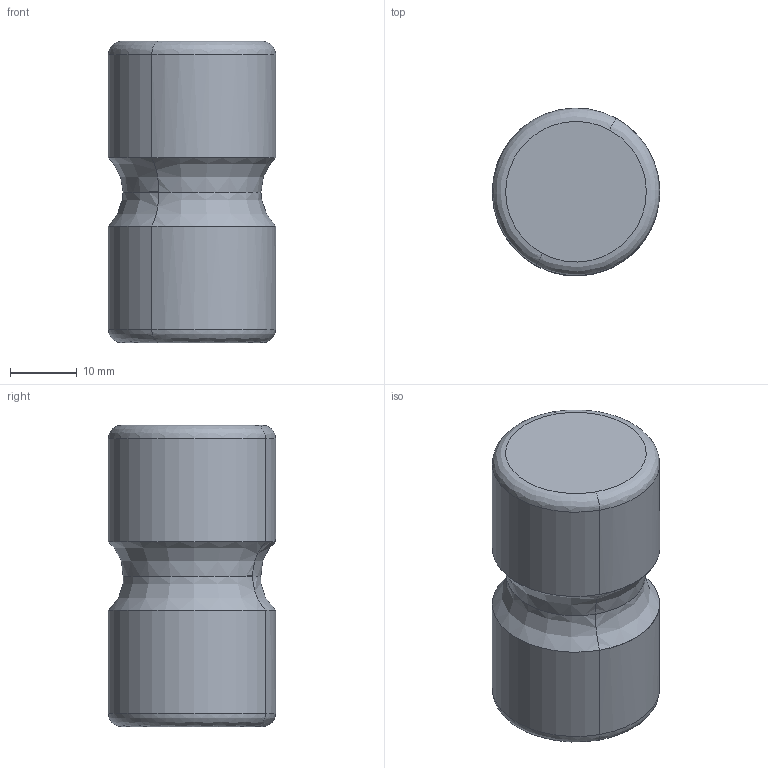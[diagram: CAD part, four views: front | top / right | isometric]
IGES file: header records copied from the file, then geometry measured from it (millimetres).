
Start section: START RECORD GO HERE.
Global section: file name: A519-25.igs; native system: DASSAULT SYSTEMES CATIA V5 R20 - www.3ds.com; preprocessor: CATIA Version 5 Release 20 ; author: Utente; organization: NB04-ASUS; date: 20211130.120904; units: millimetre
Bounding box: 25 x 24.99 x 45 mm (x, y, z)
Surface area: 4369.7 mm2 (no closed solid volume)
Topology: 0 solids, 0 shells, 14 faces, 52 edges, 52 vertices
Faces by surface type: revolution 12, plane 2
